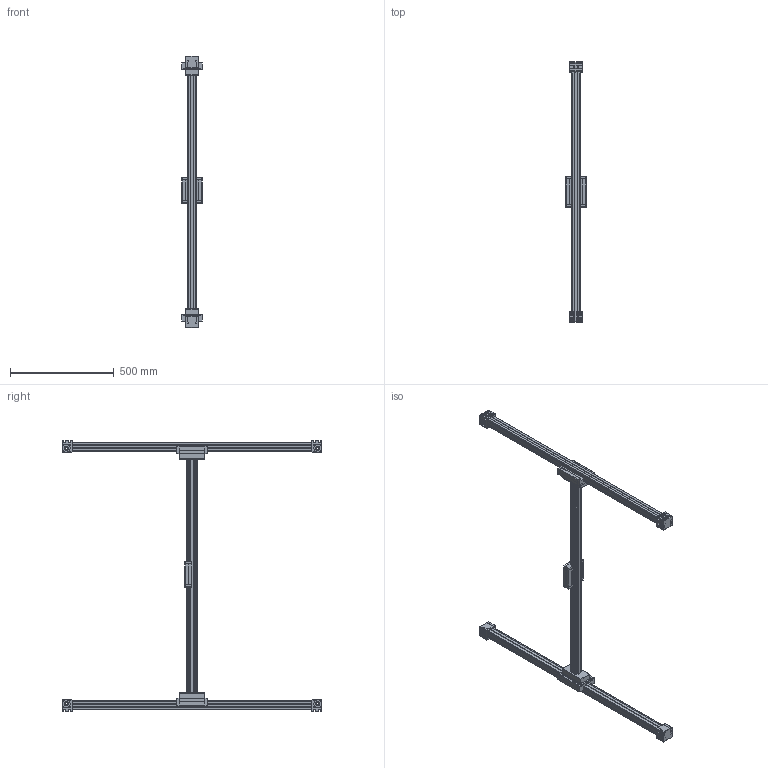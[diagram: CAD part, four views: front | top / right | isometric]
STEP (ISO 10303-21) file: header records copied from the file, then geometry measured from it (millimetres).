
FILE_DESCRIPTION (( 'STEP AP214' ), '1' );
FILE_NAME ('ELZU-40.STEP', '2016-01-14T10:16:02', ( 'admin' ), ( '' ), 'SwSTEP 2.0', 'SolidWorks 2015', '' );
FILE_SCHEMA (( 'AUTOMOTIVE_DESIGN' ));
Length unit declared in the file: millimetre
Products named in the file (10): Kopie von Bahr-ELZU-X-Axis - ELZU-4070100311320,  Y-Axis - ELZU-4080100311266_End_Block(3)^ELZU40 S0 A0 _ELZ-40-A; Kopie von Bahr-ELZU-X-Axis - ELZU-4070100311320,  Y-Axis - ELZU-4080100311266_End_Block(2)^ELZU40 S0 A0 _ELZ-40-A; Kopie von Bahr-ELZU-X-Axis - ELZU-4070100311320,  Y-Axis - ELZU-4080100311266_End_Block(1)^ELZU40 S0 A0 _ELZ-40-B; ELZU-40; Kopie von Umlenkung ELZU 40 - ED^ELZU40 S0 A0 ; Kopie von Bahr-ELZU-X-Axis - ELZU-4070100311320,  Y-Axis - ELZU-4080100311266_ELZ40 Carriage (X)^ELZU40 S0 A0 _B; Kopie von Bahr-ELZU-X-Axis - ELZU-4070100311320,  Y-Axis - ELZU-4080100311266_ELZ40 Carriage (Y)^ELZU40 S0 A0 _A; Kopie von Bahr-ELZU-X-Axis - ELZU-4070100311320,  Y-Axis - ELZU-4080100311266_ELZ40 Extrusion (X)^ELZU40 S0 A0 _1; Kopie von Bahr-ELZU-X-Axis - ELZU-4070100311320,  Y-Axis - ELZU-4080100311266_ELZ40 Extrusion (Y)^ELZU40 S0 A0 _0; Kopie von Bahr-ELZU-X-Axis - ELZU-4070100311320,  Y-Axis - ELZU-4080100311266_End_Block(4)^ELZU40 S0 A0 _ELZ-40-B
Assembly tree (12 placements, depth 2):
  ELZU-40
    Kopie von Bahr-ELZU-X-Axis - ELZU-4070100311320,  Y-Axis - ELZU-4080100311266_End_Block(1)^ELZU40 S0 A0 _ELZ-40-B
    Kopie von Bahr-ELZU-X-Axis - ELZU-4070100311320,  Y-Axis - ELZU-4080100311266_End_Block(2)^ELZU40 S0 A0 _ELZ-40-A
    Kopie von Bahr-ELZU-X-Axis - ELZU-4070100311320,  Y-Axis - ELZU-4080100311266_End_Block(3)^ELZU40 S0 A0 _ELZ-40-A
    Kopie von Bahr-ELZU-X-Axis - ELZU-4070100311320,  Y-Axis - ELZU-4080100311266_End_Block(4)^ELZU40 S0 A0 _ELZ-40-B
    Kopie von Bahr-ELZU-X-Axis - ELZU-4070100311320,  Y-Axis - ELZU-4080100311266_ELZ40 Extrusion (Y)^ELZU40 S0 A0 _0  x2
    Kopie von Bahr-ELZU-X-Axis - ELZU-4070100311320,  Y-Axis - ELZU-4080100311266_ELZ40 Extrusion (X)^ELZU40 S0 A0 _1
    Kopie von Bahr-ELZU-X-Axis - ELZU-4070100311320,  Y-Axis - ELZU-4080100311266_ELZ40 Carriage (Y)^ELZU40 S0 A0 _A  x2
    Kopie von Bahr-ELZU-X-Axis - ELZU-4070100311320,  Y-Axis - ELZU-4080100311266_ELZ40 Carriage (X)^ELZU40 S0 A0 _B
    Kopie von Umlenkung ELZU 40 - ED^ELZU40 S0 A0   x2
Bounding box: 100 x 1250 x 1304 mm (x, y, z)
Volume: 7349117.7 mm3; surface area: 1339889 mm2
Topology: 30 solids, 30 shells, 1049 faces, 2739 edges, 1794 vertices
Faces by surface type: plane 680, cylinder 329, torus 24, cone 8, sphere 8
Entity records: 25667 total; most frequent: DIRECTION 4352, CARTESIAN_POINT 4339, ORIENTED_EDGE 4228, EDGE_CURVE 2114, VECTOR 1542, LINE 1542, AXIS2_PLACEMENT_3D 1405, VERTEX_POINT 1392
